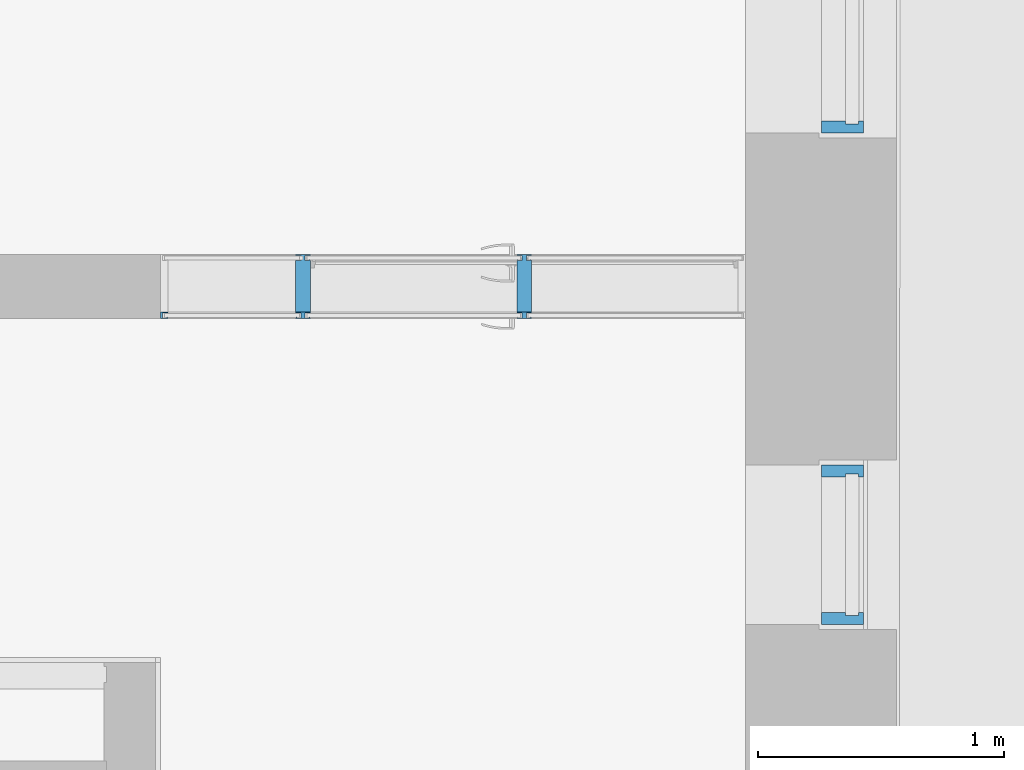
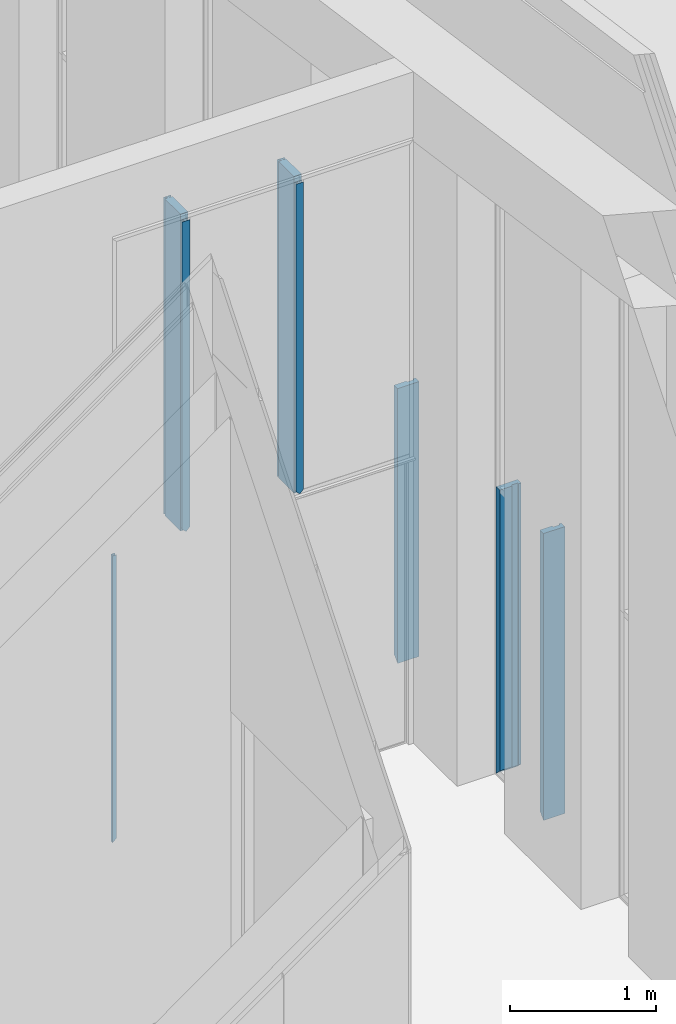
# One storey, part 18 of 246: 8 members, 4 elements without a shape of their own.
"""IFC2X3 building model written with IfcOpenShell, lengths in millimetres."""

from ifc_helpers import new_model, entity, si_unit, converted_unit, derived_unit, money_unit, direction, frame, origin_with_axes, place, context, subcontext, project, spatial, faceted_brep, source, transform, mapped, material, material_list, type_object, element, aggregate, save


model = new_model("IFC2X3")

# Units and contexts
model_context = context("Model", 3, precision=0.01, world=origin_with_axes(), true_north=direction((0.0, 1.0)))
body_context = subcontext(model_context, "Body", "Model", "MODEL_VIEW")
ifc_project = project(units=[si_unit("LENGTHUNIT", "METRE", prefix="MILLI"), si_unit("AREAUNIT", "SQUARE_METRE"), si_unit("VOLUMEUNIT", "CUBIC_METRE"), converted_unit("PLANEANGLEUNIT", "DEGREE", entity("IfcPlaneAngleMeasure", 0.0174532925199), si_unit("PLANEANGLEUNIT", "RADIAN"), dimensions=[0, 0, 0, 0, 0, 0, 0]), si_unit("SOLIDANGLEUNIT", "STERADIAN"), money_unit("EUR"), converted_unit("TIMEUNIT", "Year", entity("IfcTimeMeasure", 31556926.0), si_unit("TIMEUNIT", "SECOND"), dimensions=[0, 0, 1, 0, 0, 0, 0]), si_unit("MASSUNIT", "GRAM", prefix="KILO"), si_unit("THERMODYNAMICTEMPERATUREUNIT", "DEGREE_CELSIUS"), si_unit("LUMINOUSINTENSITYUNIT", "LUMEN"), si_unit("ENERGYUNIT", "JOULE", prefix="MEGA"), derived_unit("THERMALCONDUCTANCEUNIT", [(si_unit("POWERUNIT", "WATT"), 1), (si_unit("LENGTHUNIT", "METRE"), -1), (si_unit("THERMODYNAMICTEMPERATUREUNIT", "KELVIN"), -1)]), derived_unit("SPECIFICHEATCAPACITYUNIT", [(si_unit("ENERGYUNIT", "JOULE"), 1), (si_unit("MASSUNIT", "GRAM", prefix="KILO"), -1), (si_unit("THERMODYNAMICTEMPERATUREUNIT", "KELVIN"), -1)]), derived_unit("MASSDENSITYUNIT", [(si_unit("MASSUNIT", "GRAM", prefix="KILO"), 1), (si_unit("VOLUMEUNIT", "CUBIC_METRE"), -1)])], contexts=[model_context])

# Site, building, storey
site_placement = place(None, origin_with_axes())
site = spatial("IfcSite", under=ifc_project, at=site_placement, Name="L.Koidula tn 11b", CompositionType="ELEMENT")
building_placement = place(site_placement, origin_with_axes())
building = spatial("IfcBuilding", under=site, at=building_placement, Name="Rakvere Riigigümnaasium", CompositionType="ELEMENT")
storey_placement = place(building_placement, origin_with_axes())
storey = spatial("IfcBuildingStorey", under=building, at=storey_placement, Name="1.korrus 0,00", CompositionType="ELEMENT", Elevation=0.0)

# Curtain wall, members
curtain_wall_type = type_object("IfcCurtainWallType", Name="Curtain Wall Type", PredefinedType="NOTDEFINED")
curtain_wall_1_placement = place(storey_placement, frame((47434.0004775, 60420.4546099, 0.0), z_axis=(0.0, 0.0, 1.0), x_axis=(1.0, 0.0, 0.0)))
curtain_wall_1 = element("IfcCurtainWall", 1, at=curtain_wall_1_placement, inside=storey, type_object=curtain_wall_type, Name="KLF-07-10")
ifc_material_1 = material(Name="Alumiiniumprofiil (RAL 7021)")
member_type_1 = type_object("IfcMemberType", Name="Boundary Frame 50 x 170", PredefinedType="MULLION")
shared_shape_1 = source(origin_with_axes(), body_context, "Body", "Brep", [
    faceted_brep([(-37.0, -26.0, 2400.00000019), (-50.0, -26.0, 2400.00000019), (-50.0, -124.0, 2400.00000019), (0.0, -124.0, 2400.00000019), (0.0, 46.0, 2400.00000019), (-50.0, 46.0, 2400.00000019), (-50.0, 26.0, 2400.00000019), (-37.0, 26.0, 2400.00000019), (-37.0, -26.0, 37.0), (-50.0, -26.0, 50.0), (-50.0, -124.0, 50.0), (0.0, -124.0, 0.0), (0.0, 46.0, 0.0), (-50.0, 46.0, 50.0), (-50.0, 26.0, 50.0), (-37.0, 26.0, 37.0)], [[[0, 1, 2, 3, 4, 5, 6, 7]], [[0, 8, 9, 1]], [[9, 10, 2, 1]], [[2, 10, 11, 3]], [[3, 11, 12, 4]], [[4, 12, 13, 5]], [[6, 5, 13, 14]], [[14, 15, 7, 6]], [[7, 15, 8, 0]], [[8, 15, 14, 13, 12, 11, 10, 9]]]),
])
member_1_placement = place(curtain_wall_1_placement, frame((0.0, -324.999996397, 0.0), z_axis=(0.0, -9.97497492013e-09, 1.0), x_axis=(0.0, 1.0, 9.97497492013e-09)))
member_1 = element("IfcMember", 2, at=member_1_placement, type_object=member_type_1, material=ifc_material_1, Name="KLF-07-70-Profiilid", ObjectType="MULLION", context=body_context, shape_type="MappedRepresentation", body=[
    mapped(shared_shape_1, transform((0.0, 0.0, 0.0), x_axis=(-1.0, 0.0, 9.97497492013e-09), y_axis=(0.0, -1.0, 0.0), z_axis=(9.97497492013e-09, 0.0, 1.0))),
])
shared_shape_2 = source(origin_with_axes(), body_context, "Body", "Brep", [
    faceted_brep([(-37.0, -26.0, 2362.99999837), (-50.0, -26.0, 2349.99999779), (-50.0, -124.0, 2349.99999779), (0.0, -124.0, 2400.0), (0.0, 46.0, 2400.0), (-50.0, 46.0, 2349.99999779), (-50.0, 26.0, 2349.99999779), (-37.0, 26.0, 2362.99999837), (-37.0, -26.0, -1.22574839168e-07), (-50.0, -26.0, -1.22575061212e-07), (-50.0, -124.0, -1.22575061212e-07), (0.0, -124.0, -1.22575061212e-07), (0.0, 46.0, -1.22575061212e-07), (-50.0, 46.0, -1.22575061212e-07), (-50.0, 26.0, -1.22575061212e-07), (-37.0, 26.0, -1.22574839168e-07)], [[[0, 1, 2, 3, 4, 5, 6, 7]], [[0, 8, 9, 1]], [[9, 10, 2, 1]], [[10, 11, 3, 2]], [[11, 12, 4, 3]], [[12, 13, 5, 4]], [[6, 5, 13, 14]], [[14, 15, 7, 6]], [[7, 15, 8, 0]], [[8, 15, 14, 13, 12, 11, 10, 9]]]),
])
member_2_placement = place(curtain_wall_1_placement, frame((0.0, 325.000019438, 2400.0), z_axis=(0.0, 3.22122239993e-08, -1.0), x_axis=(0.0, -1.0, -3.22122239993e-08)))
member_2 = element("IfcMember", 3, at=member_2_placement, type_object=member_type_1, material=ifc_material_1, Name="KLF-07-74-Profiilid", ObjectType="MULLION", context=body_context, shape_type="MappedRepresentation", body=[
    mapped(shared_shape_2, transform((0.0, 0.0, 0.0), x_axis=(-1.0, 0.0, 3.22122238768e-08), y_axis=(0.0, -1.0, 0.0), z_axis=(3.22122238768e-08, 0.0, 1.0))),
])
aggregate(curtain_wall_1, [member_1, member_2])

# Curtain wall, member
curtain_wall_2_placement = place(storey_placement, frame((47433.9999935, 62420.4545024, 99.9999847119), z_axis=(0.0, 0.0, 1.0), x_axis=(1.0, 0.0, 0.0)))
curtain_wall_2 = element("IfcCurtainWall", 4, at=curtain_wall_2_placement, inside=storey, type_object=curtain_wall_type, Name="KLF-07-11")
shared_shape_3 = source(origin_with_axes(), body_context, "Body", "Brep", [
    faceted_brep([(-37.0, -26.0, 2300.00001596), (-50.0, -26.0, 2300.00001596), (-50.0, -124.0, 2300.00001596), (0.0, -124.0, 2300.00001596), (0.0, 46.0, 2300.00001596), (-50.0, 46.0, 2300.00001596), (-50.0, 26.0, 2300.00001596), (-37.0, 26.0, 2300.00001596), (-37.0, -26.0, 37.0000009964), (-50.0, -26.0, 50.0000013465), (-50.0, -124.0, 50.0000013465), (0.0, -124.0, 0.0), (0.0, 46.0, 0.0), (-50.0, 46.0, 50.0000013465), (-50.0, 26.0, 50.0000013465), (-37.0, 26.0, 37.0000009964)], [[[0, 1, 2, 3, 4, 5, 6, 7]], [[0, 8, 9, 1]], [[9, 10, 2, 1]], [[2, 10, 11, 3]], [[3, 11, 12, 4]], [[4, 12, 13, 5]], [[6, 5, 13, 14]], [[14, 15, 7, 6]], [[7, 15, 8, 0]], [[8, 15, 14, 13, 12, 11, 10, 9]]]),
])
member_3_placement = place(curtain_wall_2_placement, frame((0.0, -325.000205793, 0.0), z_axis=(0.0, 2.69307866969e-08, 1.0), x_axis=(0.0, 1.0, -2.69307866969e-08)))
member_3 = element("IfcMember", 5, at=member_3_placement, type_object=member_type_1, material=ifc_material_1, Name="KLF-07-71-Profiilid", ObjectType="MULLION", context=body_context, shape_type="MappedRepresentation", body=[
    mapped(shared_shape_3, transform((0.0, 0.0, 0.0), x_axis=(-1.0, 0.0, -2.69307866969e-08), y_axis=(0.0, -1.0, 0.0), z_axis=(-2.69307866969e-08, 0.0, 1.0))),
])
aggregate(curtain_wall_2, [member_3])

# Curtain wall, members
curtain_wall_3_placement = place(storey_placement, frame((46459.9999921, 61346.4546496, -4.47035262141e-05), z_axis=(0.0, 0.0, 1.0), x_axis=(1.0, 0.0, 0.0)))
curtain_wall_3 = element("IfcCurtainWall", 6, at=curtain_wall_3_placement, inside=storey, type_object=curtain_wall_type, Name="SKLF-04")
ifc_material_2 = material(Name="Klaasvill")
ifc_material_3 = material(Name="Teras RAL7012")
ifc_material_list_1 = material_list([ifc_material_2, ifc_material_3])
member_type_2 = type_object("IfcMemberType", Name="Boundary Frame 30 x 15", PredefinedType="MULLION")
shared_shape_4 = source(origin_with_axes(), body_context, "Body", "Brep", [
    faceted_brep([(-8.35001923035, -16.999999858, 8.35001923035), (-2.00001916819, -16.999999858, 2.00001916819), (-2.00001916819, -16.999999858, 2400.0000447), (-8.35001923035, -16.999999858, 2400.0000447), (-8.35001923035, 3.01614428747, 8.35001923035), (-2.00001916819, 3.01614428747, 2.00001916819), (-2.00001916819, 3.01614428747, 2400.0000447), (-8.35001923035, 3.01614428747, 2400.0000447)], [[[0, 1, 2, 3]], [[1, 0, 4, 5]], [[1, 5, 6, 2]], [[2, 6, 7, 3]], [[4, 0, 3, 7]], [[5, 4, 7, 6]]]),
    faceted_brep([(-25.004489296, 1.03075035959, 25.004489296), (-24.987414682, 3.01614444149, 24.987414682), (-24.987414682, 3.01614444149, 2400.0000447), (-25.004489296, 1.03075035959, 2400.0000447), (-25.742237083, 0.293002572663, 25.742237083), (-26.7500193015, 0.0229681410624, 26.7500193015), (-27.75780152, 0.293002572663, 27.75780152), (-28.4955493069, 1.03075035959, 28.4955493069), (-28.7655837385, 2.03853257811, 28.7655837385), (-28.5126239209, 3.01614444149, 28.5126239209), (-28.5126239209, 3.01614444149, 2400.0000447), (-28.7655837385, 2.03853257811, 2400.0000447), (-28.4955493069, 1.03075035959, 2400.0000447), (-27.75780152, 0.293002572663, 2400.0000447), (-26.7500193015, 0.0229681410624, 2400.0000447), (-25.742237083, 0.293002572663, 2400.0000447)], [[[0, 1, 2, 3]], [[1, 0, 4, 5, 6, 7, 8, 9]], [[1, 9, 10, 2]], [[2, 10, 11, 12, 13, 14, 15, 3]], [[4, 0, 3, 15]], [[5, 4, 15, 14]], [[6, 5, 14, 13]], [[7, 6, 13, 12]], [[8, 7, 12, 11]], [[9, 8, 11, 10]]]),
    faceted_brep([(-30.0000193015, -20.0, 30.0000193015), (0.0, -20.0, 0.0), (0.0, -20.0, 2400.0000447), (-30.0000193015, -20.0, 2400.0000447), (-30.0000193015, -17.0, 30.0000193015), (-8.35001923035, -16.999999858, 8.35001923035), (-2.00001930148, -17.0, 2.00001930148), (-2.00001930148, 3.01614444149, 2.00001930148), (-8.35001923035, 3.01614428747, 8.35001923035), (-24.987414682, 3.01614444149, 24.987414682), (-28.5126239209, 3.01614444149, 28.5126239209), (-30.0000193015, 3.01614444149, 30.0000193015), (-30.0000193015, 6.0, 30.0000193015), (0.0, 6.0, 0.0), (0.0, 6.0, 2400.0000447), (-30.0000193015, 6.0, 2400.0000447), (-30.0000193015, 3.01614444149, 2400.0000447), (-28.5126239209, 3.01614444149, 2400.0000447), (-24.987414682, 3.01614444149, 2400.0000447), (-8.35001923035, 3.01614428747, 2400.0000447), (-2.00001930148, 3.01614444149, 2400.0000447), (-2.00001930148, -17.0, 2400.0000447), (-8.35001923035, -16.999999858, 2400.0000447), (-30.0000193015, -17.0, 2400.0000447)], [[[0, 1, 2, 3]], [[1, 0, 4, 5, 6, 7, 8, 9, 10, 11, 12, 13]], [[1, 13, 14, 2]], [[2, 14, 15, 16, 17, 18, 19, 20, 21, 22, 23, 3]], [[4, 0, 3, 23]], [[5, 4, 23, 22]], [[6, 5, 22, 21]], [[7, 6, 21, 20]], [[8, 7, 20, 19]], [[9, 8, 19, 18]], [[10, 9, 18, 17]], [[11, 10, 17, 16]], [[12, 11, 16, 15]], [[13, 12, 15, 14]]]),
])
member_4_placement = place(curtain_wall_3_placement, frame((-1840.00000095, 0.0, 0.0), z_axis=(0.0, 0.0, 1.0), x_axis=(-1.0, 0.0, 0.0)))
member_4 = element("IfcMember", 7, at=member_4_placement, type_object=member_type_2, material=ifc_material_list_1, Name="P-SKLF-43-raam", ObjectType="MULLION", context=body_context, shape_type="MappedRepresentation", body=[
    mapped(shared_shape_4, transform((0.0, 0.0, 0.0))),
])
member_type_3 = type_object("IfcMemberType", Name="Siseklaasfassaad-Doubleline-Klaaside vahe-2_60x26 60 x 20", PredefinedType="MULLION")
shared_shape_5 = source(origin_with_axes(), body_context, "Body", "Brep", [
    faceted_brep([(8.35001923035, -16.999999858, 8.35001923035), (8.35001923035, 3.01614428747, 8.35001923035), (8.35001923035, 3.01614428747, 2600.0), (8.35001923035, -16.999999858, 2600.0), (2.00001916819, 3.01614473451, 2.00001916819), (2.00001916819, -16.999999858, 2.00001916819), (2.00001916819, 3.01614473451, 2600.0), (2.00001916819, -16.999999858, 2600.0)], [[[0, 1, 2, 3]], [[4, 1, 0, 5]], [[1, 4, 6, 2]], [[3, 2, 6, 7]], [[5, 0, 3, 7]], [[4, 5, 7, 6]]]),
    faceted_brep([(28.4955493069, 1.03075035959, 28.4955493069), (28.7655837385, 2.03853257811, 28.7655837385), (28.7655837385, 2.03853257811, 2600.0), (28.4955493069, 1.03075035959, 2600.0), (28.5126239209, 3.01614444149, 28.5126239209), (27.75780152, 0.293002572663, 27.75780152), (26.7500193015, 0.0229681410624, 26.7500193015), (25.742237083, 0.293002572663, 25.742237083), (25.004489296, 1.03075035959, 25.004489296), (24.7344548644, 2.03853257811, 24.7344548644), (28.5126239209, 3.01614444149, 2600.0), (27.75780152, 0.293002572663, 2600.0), (24.7344548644, 2.03853257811, 2600.0), (25.004489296, 1.03075035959, 2600.0), (25.742237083, 0.293002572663, 2600.0), (26.7500193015, 0.0229681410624, 2600.0)], [[[0, 1, 2, 3]], [[4, 1, 0, 5, 6, 7, 8, 9]], [[1, 4, 10, 2]], [[11, 3, 2, 10, 12, 13, 14, 15]], [[5, 0, 3, 11]], [[6, 5, 11, 15]], [[7, 6, 15, 14]], [[8, 7, 14, 13]], [[9, 8, 13, 12]], [[4, 9, 12, 10]]]),
    faceted_brep([(-2.00001916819, -16.999999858, 2.00001916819), (-2.00001916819, 3.01614428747, 2.00001916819), (-2.00001916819, 3.01614428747, 2600.0), (-2.00001916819, -16.999999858, 2600.0), (-8.35001923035, 3.01614428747, 8.35001923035), (-8.35001923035, -16.999999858, 8.35001923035), (-8.35001923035, 3.01614428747, 2600.0), (-8.35001923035, -16.999999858, 2600.0)], [[[0, 1, 2, 3]], [[4, 1, 0, 5]], [[1, 4, 6, 2]], [[3, 2, 6, 7]], [[5, 0, 3, 7]], [[4, 5, 7, 6]]]),
    faceted_brep([(-25.004489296, 1.03075035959, 25.004489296), (-24.7344548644, 2.03853257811, 24.7344548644), (-24.7344548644, 2.03853257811, 2600.0), (-25.004489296, 1.03075035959, 2600.0), (-24.987414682, 3.01614444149, 24.987414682), (-25.742237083, 0.293002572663, 25.742237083), (-26.7500193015, 0.0229681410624, 26.7500193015), (-27.75780152, 0.293002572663, 27.75780152), (-28.4955493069, 1.03075035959, 28.4955493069), (-28.5126239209, 3.01614444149, 28.5126239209), (-24.987414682, 3.01614444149, 2600.0), (-28.5126239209, 3.01614444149, 2600.0), (-28.4955493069, 1.03075035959, 2600.0), (-27.75780152, 0.293002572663, 2600.0), (-26.7500193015, 0.0229681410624, 2600.0), (-25.742237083, 0.293002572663, 2600.0)], [[[0, 1, 2, 3]], [[4, 1, 0, 5, 6, 7, 8, 9]], [[1, 4, 10, 2]], [[3, 2, 10, 11, 12, 13, 14, 15]], [[5, 0, 3, 15]], [[6, 5, 15, 14]], [[7, 6, 14, 13]], [[8, 7, 13, 12]], [[9, 8, 12, 11]], [[4, 9, 11, 10]]]),
    faceted_brep([(30.0000193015, 3.01614473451, 30.0000193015), (30.0000193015, 5.9999997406, 30.0000193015), (30.0000193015, 5.9999997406, 2600.0), (30.0000193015, 3.01614473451, 2600.0), (0.0, 5.9999997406, 0.0), (28.5126239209, 3.01614444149, 28.5126239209), (24.987414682, 3.01614444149, 24.987414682), (8.35001923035, 3.01614428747, 8.35001923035), (2.00001916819, 3.01614473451, 2.00001916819), (2.00001916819, -16.999999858, 2.00001916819), (8.35001923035, -16.999999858, 8.35001923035), (30.0000193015, -16.999999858, 30.0000193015), (30.0000193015, -20.0, 30.0000193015), (0.0, -20.0, 0.0), (0.0, 5.9999997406, 2600.0), (28.5126239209, 3.01614444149, 2600.0), (0.0, -20.0, 2600.0), (30.0000193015, -20.0, 2600.0), (30.0000193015, -16.999999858, 2600.0), (8.35001923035, -16.999999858, 2600.0), (2.00001916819, -16.999999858, 2600.0), (2.00001916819, 3.01614473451, 2600.0), (8.35001923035, 3.01614428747, 2600.0), (24.987414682, 3.01614444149, 2600.0)], [[[0, 1, 2, 3]], [[4, 1, 0, 5, 6, 7, 8, 9, 10, 11, 12, 13]], [[1, 4, 14, 2]], [[15, 3, 2, 14, 16, 17, 18, 19, 20, 21, 22, 23]], [[5, 0, 3, 15]], [[6, 5, 15, 23]], [[7, 6, 23, 22]], [[8, 7, 22, 21]], [[9, 8, 21, 20]], [[10, 9, 20, 19]], [[11, 10, 19, 18]], [[12, 11, 18, 17]], [[13, 12, 17, 16]], [[4, 13, 16, 14]]]),
    faceted_brep([(0.0, -20.0, 0.0), (0.0, 6.0, 0.0), (0.0, 6.0, 2600.0), (0.0, -20.0, 2600.0), (-30.0000193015, 6.0, 30.0000193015), (-30.0000193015, -20.0, 30.0000193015), (-30.0000193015, -17.0, 30.0000193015), (-8.35001923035, -16.999999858, 8.35001923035), (-2.00001930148, -17.0, 2.00001930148), (-2.00001930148, 3.01614444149, 2.00001930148), (-8.35001923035, 3.01614428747, 8.35001923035), (-24.987414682, 3.01614444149, 24.987414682), (-28.5126239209, 3.01614444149, 28.5126239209), (-30.0000193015, 3.01614444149, 30.0000193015), (-30.0000193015, 6.0, 2600.0), (-8.35001923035, -16.999999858, 2600.0), (-30.0000193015, -17.0, 2600.0), (-30.0000193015, -20.0, 2600.0), (-30.0000193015, 3.01614444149, 2600.0), (-28.5126239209, 3.01614444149, 2600.0), (-24.987414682, 3.01614444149, 2600.0), (-8.35001923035, 3.01614428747, 2600.0), (-2.00001930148, 3.01614444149, 2600.0), (-2.00001930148, -17.0, 2600.0)], [[[0, 1, 2, 3]], [[4, 1, 0, 5, 6, 7, 8, 9, 10, 11, 12, 13]], [[1, 4, 14, 2]], [[15, 16, 17, 3, 2, 14, 18, 19, 20, 21, 22, 23]], [[5, 0, 3, 17]], [[6, 5, 17, 16]], [[7, 6, 16, 15]], [[8, 7, 15, 23]], [[9, 8, 23, 22]], [[10, 9, 22, 21]], [[11, 10, 21, 20]], [[12, 11, 20, 19]], [[13, 12, 19, 18]], [[4, 13, 18, 14]]]),
])
member_5_placement = place(curtain_wall_3_placement, frame((-360.00000095, 0.0, 2400.0000447), z_axis=(0.0, 0.0, 1.0), x_axis=(-1.0, 0.0, 0.0)))
member_5 = element("IfcMember", 8, at=member_5_placement, type_object=member_type_3, material=ifc_material_list_1, Name="Frame-Siseklaasf-003", ObjectType="MULLION", context=body_context, shape_type="MappedRepresentation", body=[
    mapped(shared_shape_5, transform((0.0, 0.0, 0.0))),
])
member_6_placement = place(curtain_wall_3_placement, frame((-1260.00000095, 0.0, 2400.0000447), z_axis=(0.0, 0.0, 1.0), x_axis=(-1.0, 0.0, 0.0)))
member_6 = element("IfcMember", 9, at=member_6_placement, type_object=member_type_3, material=ifc_material_list_1, Name="Frame-Siseklaasf-002", ObjectType="MULLION", context=body_context, shape_type="MappedRepresentation", body=[
    mapped(shared_shape_5, transform((0.0, 0.0, 0.0))),
])
aggregate(curtain_wall_3, [member_4, member_5, member_6])

curtain_wall_4_placement = place(storey_placement, frame((46549.9999923, 61580.5357918, -4.47035262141e-05), z_axis=(0.0, 0.0, 1.0), x_axis=(1.0, 0.0, 0.0)))
curtain_wall_4 = element("IfcCurtainWall", 10, at=curtain_wall_4_placement, inside=storey, type_object=curtain_wall_type, Name="SKLF-05")
ifc_material_4 = material(Name="Puit")
ifc_material_list_2 = material_list([ifc_material_4, ifc_material_2, ifc_material_3])
member_type_4 = type_object("IfcMemberType", Name="Mullion Frame 60 x 12", PredefinedType="MULLION")
shared_shape_6 = source(origin_with_axes(), body_context, "Body", "Brep", [
    faceted_brep([(30.0000203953, 214.0, 0.0), (-30.0000193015, 214.0, 0.0), (-30.0000193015, 214.0, 2650.0), (30.0000203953, 214.0, 2650.0), (30.0000203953, 5.99999883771, 0.0), (5.46888482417e-07, 5.99999883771, 0.0), (-30.0000193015, 5.99999883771, 0.0), (-30.0000193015, 5.99999883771, 2650.0), (5.46888482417e-07, 5.99999883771, 2650.0), (30.0000203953, 5.99999883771, 2650.0)], [[[0, 1, 2, 3]], [[0, 4, 5, 6, 1]], [[1, 6, 7, 2]], [[3, 2, 7, 8, 9]], [[4, 0, 3, 9]], [[5, 4, 9, 8]], [[6, 5, 8, 7]]]),
    faceted_brep([(2.00001916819, -16.999999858, 0.0), (8.35001923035, -16.999999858, 0.0), (8.35001923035, -16.999999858, 2650.0), (2.00001916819, -16.999999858, 2650.0), (2.00001916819, 3.01614473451, 0.0), (8.35001923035, 3.01614428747, 0.0), (8.35001923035, 3.01614428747, 2650.0), (2.00001916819, 3.01614473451, 2650.0)], [[[0, 1, 2, 3]], [[0, 4, 5, 1]], [[1, 5, 6, 2]], [[3, 2, 6, 7]], [[4, 0, 3, 7]], [[5, 4, 7, 6]]]),
    faceted_brep([(28.5126239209, 3.01614444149, 0.0), (24.7344548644, 2.03853257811, 0.0), (24.7344548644, 2.03853257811, 2650.0), (28.5126239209, 3.01614444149, 2650.0), (28.7655837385, 2.03853257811, 0.0), (28.4955493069, 1.03075035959, 0.0), (27.75780152, 0.293002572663, 0.0), (26.7500193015, 0.0229681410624, 0.0), (25.742237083, 0.293002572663, 0.0), (25.004489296, 1.03075035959, 0.0), (25.004489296, 1.03075035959, 2650.0), (25.742237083, 0.293002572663, 2650.0), (26.7500193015, 0.0229681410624, 2650.0), (27.75780152, 0.293002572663, 2650.0), (28.4955493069, 1.03075035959, 2650.0), (28.7655837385, 2.03853257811, 2650.0)], [[[0, 1, 2, 3]], [[0, 4, 5, 6, 7, 8, 9, 1]], [[1, 9, 10, 2]], [[3, 2, 10, 11, 12, 13, 14, 15]], [[4, 0, 3, 15]], [[5, 4, 15, 14]], [[6, 5, 14, 13]], [[7, 6, 13, 12]], [[8, 7, 12, 11]], [[9, 8, 11, 10]]]),
    faceted_brep([(-8.35001923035, -16.999999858, 0.0), (-2.00001916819, -16.999999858, 0.0), (-2.00001916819, -16.999999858, 2650.0), (-8.35001923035, -16.999999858, 2650.0), (-8.35001923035, 3.01614428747, 0.0), (-2.00001916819, 3.01614428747, 0.0), (-2.00001916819, 3.01614428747, 2650.0), (-8.35001923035, 3.01614428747, 2650.0)], [[[0, 1, 2, 3]], [[0, 4, 5, 1]], [[1, 5, 6, 2]], [[3, 2, 6, 7]], [[4, 0, 3, 7]], [[5, 4, 7, 6]]]),
    faceted_brep([(-28.5126239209, 3.01614444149, 0.0), (-28.4955493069, 1.03075035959, 0.0), (-28.4955493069, 1.03075035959, 2650.0), (-28.5126239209, 3.01614444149, 2650.0), (-24.987414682, 3.01614444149, 0.0), (-24.7344548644, 2.03853257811, 0.0), (-25.004489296, 1.03075035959, 0.0), (-25.742237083, 0.293002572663, 0.0), (-26.7500193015, 0.0229681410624, 0.0), (-27.75780152, 0.293002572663, 0.0), (-27.75780152, 0.293002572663, 2650.0), (-26.7500193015, 0.0229681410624, 2650.0), (-25.742237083, 0.293002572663, 2650.0), (-25.004489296, 1.03075035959, 2650.0), (-24.7344548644, 2.03853257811, 2650.0), (-24.987414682, 3.01614444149, 2650.0)], [[[0, 1, 2, 3]], [[0, 4, 5, 6, 7, 8, 9, 1]], [[1, 9, 10, 2]], [[3, 2, 10, 11, 12, 13, 14, 15]], [[4, 0, 3, 15]], [[5, 4, 15, 14]], [[6, 5, 14, 13]], [[7, 6, 13, 12]], [[8, 7, 12, 11]], [[9, 8, 11, 10]]]),
    faceted_brep([(30.0000193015, 5.9999997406, 0.0), (0.0, 5.9999997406, 0.0), (0.0, 5.9999997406, 2650.0), (30.0000193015, 5.9999997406, 2650.0), (30.0000193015, 3.01614473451, 0.0), (28.5126239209, 3.01614444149, 0.0), (24.987414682, 3.01614444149, 0.0), (8.35001923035, 3.01614428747, 0.0), (2.00001916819, 3.01614473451, 0.0), (2.00001916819, -16.999999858, 0.0), (8.35001923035, -16.999999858, 0.0), (30.0000193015, -16.999999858, 0.0), (30.0000193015, -20.0, 0.0), (0.0, -20.0, 0.0), (0.0, -20.0, 2650.0), (30.0000193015, -20.0, 2650.0), (30.0000193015, -16.999999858, 2650.0), (8.35001923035, -16.999999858, 2650.0), (2.00001916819, -16.999999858, 2650.0), (2.00001916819, 3.01614473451, 2650.0), (8.35001923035, 3.01614428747, 2650.0), (24.987414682, 3.01614444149, 2650.0), (28.5126239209, 3.01614444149, 2650.0), (30.0000193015, 3.01614473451, 2650.0)], [[[0, 1, 2, 3]], [[0, 4, 5, 6, 7, 8, 9, 10, 11, 12, 13, 1]], [[1, 13, 14, 2]], [[3, 2, 14, 15, 16, 17, 18, 19, 20, 21, 22, 23]], [[4, 0, 3, 23]], [[5, 4, 23, 22]], [[6, 5, 22, 21]], [[7, 6, 21, 20]], [[8, 7, 20, 19]], [[9, 8, 19, 18]], [[10, 9, 18, 17]], [[11, 10, 17, 16]], [[12, 11, 16, 15]], [[13, 12, 15, 14]]]),
    faceted_brep([(0.0, -20.0, 0.0), (0.0, 6.0, 0.0), (0.0, 6.0, 2650.0), (0.0, -20.0, 2650.0), (-30.0000193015, -20.0, 0.0), (-30.0000193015, -17.0, 0.0), (-8.35001923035, -16.999999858, 0.0), (-2.00001930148, -17.0, 0.0), (-2.00001930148, 3.01614444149, 0.0), (-8.35001923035, 3.01614428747, 0.0), (-24.987414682, 3.01614444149, 0.0), (-28.5126239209, 3.01614444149, 0.0), (-30.0000193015, 3.01614444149, 0.0), (-30.0000193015, 6.0, 0.0), (-30.0000193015, 6.0, 2650.0), (-30.0000193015, 3.01614444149, 2650.0), (-28.5126239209, 3.01614444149, 2650.0), (-24.987414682, 3.01614444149, 2650.0), (-8.35001923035, 3.01614428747, 2650.0), (-2.00001930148, 3.01614444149, 2650.0), (-2.00001930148, -17.0, 2650.0), (-8.35001923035, -16.999999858, 2650.0), (-30.0000193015, -17.0, 2650.0), (-30.0000193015, -20.0, 2650.0)], [[[0, 1, 2, 3]], [[0, 4, 5, 6, 7, 8, 9, 10, 11, 12, 13, 1]], [[1, 13, 14, 2]], [[3, 2, 14, 15, 16, 17, 18, 19, 20, 21, 22, 23]], [[4, 0, 3, 23]], [[5, 4, 23, 22]], [[6, 5, 22, 21]], [[7, 6, 21, 20]], [[8, 7, 20, 19]], [[9, 8, 19, 18]], [[10, 9, 18, 17]], [[11, 10, 17, 16]], [[12, 11, 16, 15]], [[13, 12, 15, 14]]]),
])
member_7_placement = place(curtain_wall_4_placement, frame((-450.000001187, 0.0, 2400.0000447), z_axis=(0.0, 0.0, 1.0), x_axis=(-1.0, 0.0, 0.0)))
member_7 = element("IfcMember", 11, at=member_7_placement, type_object=member_type_4, material=ifc_material_list_2, Name="P-SKLF-68-raam", ObjectType="MULLION", context=body_context, shape_type="MappedRepresentation", body=[
    mapped(shared_shape_6, transform((0.0, 0.0, 0.0))),
])
member_8_placement = place(curtain_wall_4_placement, frame((-1350.00000119, 0.0, 2400.0000447), z_axis=(0.0, 0.0, 1.0), x_axis=(-1.0, 0.0, 0.0)))
member_8 = element("IfcMember", 12, at=member_8_placement, type_object=member_type_4, material=ifc_material_list_2, Name="P-SKLF-67-raam", ObjectType="MULLION", context=body_context, shape_type="MappedRepresentation", body=[
    mapped(shared_shape_6, transform((0.0, 0.0, 0.0))),
])
aggregate(curtain_wall_4, [member_7, member_8])

save(model, "model.ifc")
